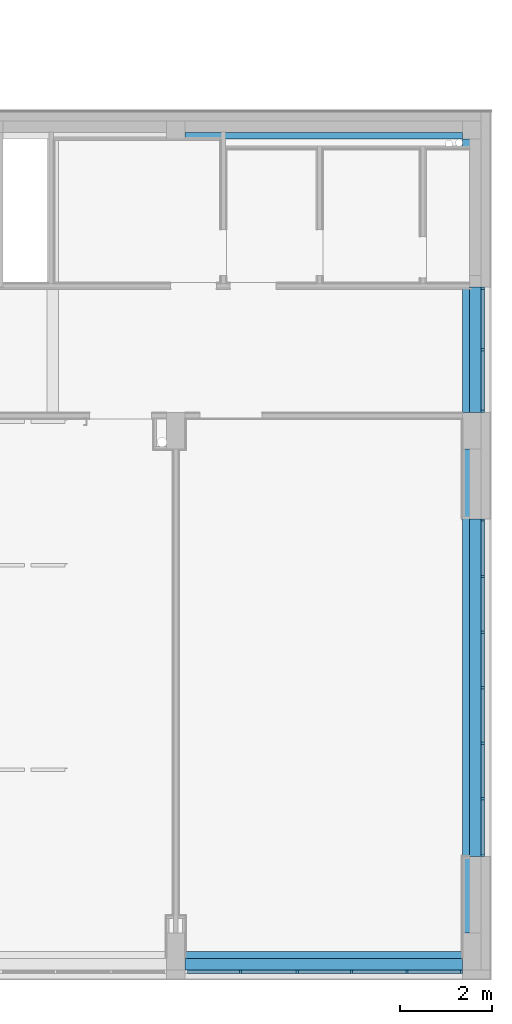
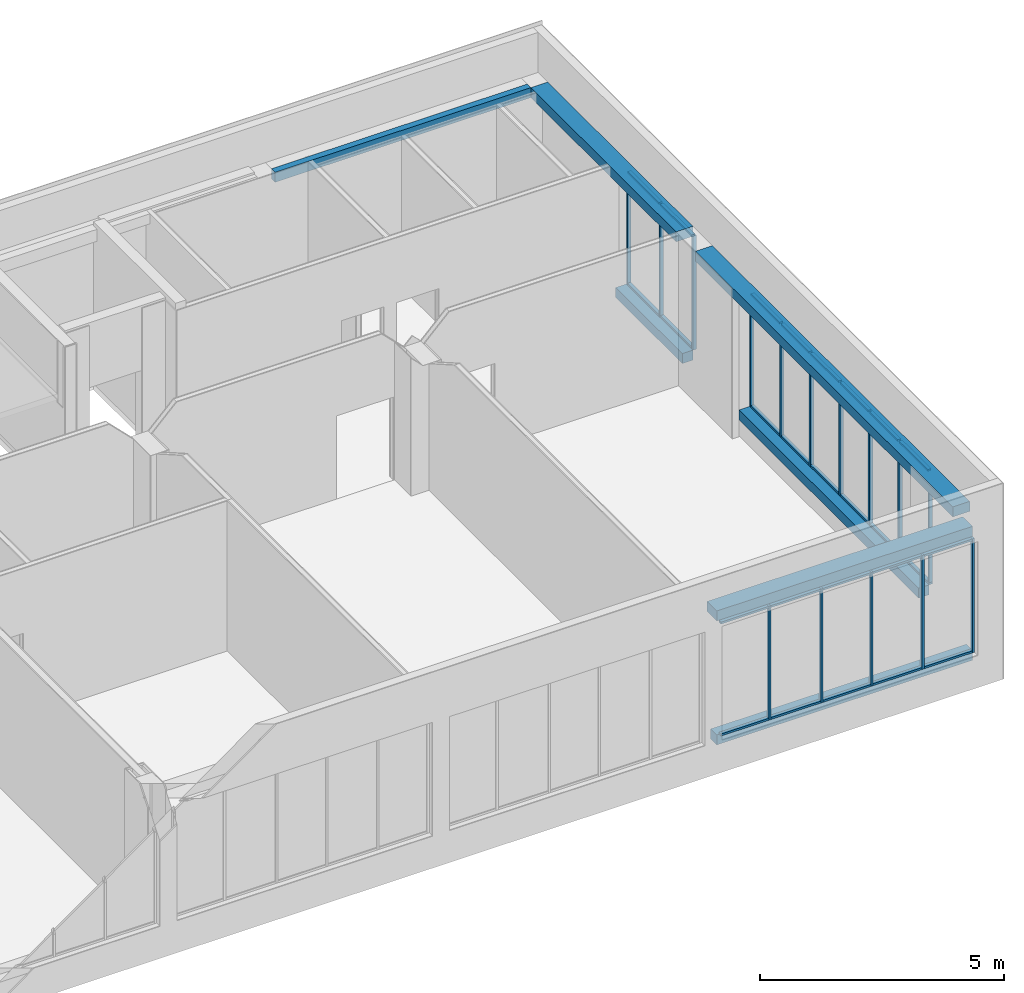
# One storey, part 11 of 29: 41 members, 6 beams, 3 elements without a shape of their own.
"""IFC2X3 building model written with IfcOpenShell, lengths in centimetres."""

from ifc_helpers import new_model, entity, si_unit, converted_unit, derived_unit, direction, frame, frame_2d, origin, origin_2d_with_axis, place, context, subcontext, project, spatial, rectangle, extrude, source, transform, mapped, material, type_object, type_shapes, element, aggregate, save


model = new_model("IFC2X3")

# Units and contexts
model_context = context("Model", 3, precision=0.001, world=origin(), true_north=direction((6.12303176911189e-17, 1.0)))
body_context = subcontext(model_context, "Body", "Model", "MODEL_VIEW")
ifc_project = project(units=[si_unit("LENGTHUNIT", "METRE", prefix="CENTI"), si_unit("AREAUNIT", "SQUARE_METRE"), si_unit("VOLUMEUNIT", "CUBIC_METRE"), converted_unit("PLANEANGLEUNIT", "DEGREE", entity("IfcRatioMeasure", 0.0174532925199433), si_unit("PLANEANGLEUNIT", "RADIAN"), dimensions=[0, 0, 0, 0, 0, 0, 0]), si_unit("MASSUNIT", "GRAM", prefix="KILO"), derived_unit("MASSDENSITYUNIT", [(si_unit("MASSUNIT", "GRAM", prefix="KILO"), 1), (si_unit("LENGTHUNIT", "METRE"), -3)]), derived_unit("MOMENTOFINERTIAUNIT", [(si_unit("LENGTHUNIT", "METRE"), 4)]), si_unit("TIMEUNIT", "SECOND"), si_unit("FREQUENCYUNIT", "HERTZ"), si_unit("THERMODYNAMICTEMPERATUREUNIT", "DEGREE_CELSIUS"), derived_unit("THERMALTRANSMITTANCEUNIT", [(si_unit("MASSUNIT", "GRAM", prefix="KILO"), 1), (si_unit("THERMODYNAMICTEMPERATUREUNIT", "KELVIN"), -1), (si_unit("TIMEUNIT", "SECOND"), -3)]), derived_unit("VOLUMETRICFLOWRATEUNIT", [(si_unit("LENGTHUNIT", "METRE"), 3), (si_unit("TIMEUNIT", "SECOND"), -1)]), si_unit("ELECTRICCURRENTUNIT", "AMPERE"), si_unit("ELECTRICVOLTAGEUNIT", "VOLT"), si_unit("POWERUNIT", "WATT"), si_unit("FORCEUNIT", "NEWTON", prefix="KILO"), si_unit("ILLUMINANCEUNIT", "LUX"), si_unit("LUMINOUSFLUXUNIT", "LUMEN"), si_unit("LUMINOUSINTENSITYUNIT", "CANDELA"), derived_unit("USERDEFINED", [(si_unit("MASSUNIT", "GRAM", prefix="KILO"), -1), (si_unit("LENGTHUNIT", "METRE"), -2), (si_unit("TIMEUNIT", "SECOND"), 3), (si_unit("LUMINOUSFLUXUNIT", "LUMEN"), 1)]), derived_unit("LINEARVELOCITYUNIT", [(si_unit("LENGTHUNIT", "METRE"), 1), (si_unit("TIMEUNIT", "SECOND"), -1)]), si_unit("PRESSUREUNIT", "PASCAL"), derived_unit("USERDEFINED", [(si_unit("LENGTHUNIT", "METRE"), -2), (si_unit("MASSUNIT", "GRAM", prefix="KILO"), 1), (si_unit("TIMEUNIT", "SECOND"), -2)]), derived_unit("LINEARFORCEUNIT", [(si_unit("MASSUNIT", "GRAM", prefix="KILO"), 1), (si_unit("LENGTHUNIT", "METRE"), 1), (si_unit("TIMEUNIT", "SECOND"), -2), (si_unit("LENGTHUNIT", "METRE"), -1)]), derived_unit("PLANARFORCEUNIT", [(si_unit("MASSUNIT", "GRAM", prefix="KILO"), 1), (si_unit("LENGTHUNIT", "METRE"), 1), (si_unit("TIMEUNIT", "SECOND"), -2), (si_unit("LENGTHUNIT", "METRE"), -2)])], contexts=[model_context])

# Site, building, storey
site_placement = place(None, origin())
site = spatial("IfcSite", under=ifc_project, at=site_placement, Name="Default", CompositionType="ELEMENT")
building_placement = place(site_placement, origin())
building = spatial("IfcBuilding", under=site, at=building_placement, CompositionType="ELEMENT")
storey_placement = place(building_placement, frame((0.0, 0.0, 545.0)))
storey = spatial("IfcBuildingStorey", under=building, at=storey_placement, Name="Poziom 1K +5,45", CompositionType="ELEMENT", Elevation=544.999999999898)

# Beams
ifc_material_1 = material(Name="_Beton C30/37")
beam_type_1 = type_object("IfcBeamType", Name="Beton-belka prostokątna:BELKA 40x30", PredefinedType="NOTDEFINED")
beam_1_placement = place(storey_placement, frame((310.734891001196, 2085.127452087, 380.0)))
element("IfcBeam", 1, at=beam_1_placement, inside=storey, type_object=beam_type_1, material=ifc_material_1, Name="Beton-belka prostokątna:BELKA 40x30", ObjectType="Beton-belka prostokątna:BELKA 40x30", context=body_context, shape_type="SweptSolid", body=[
    extrude(rectangle(XDim=25.0000000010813, YDim=14.999998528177, at=frame_2d((-5.41788836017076e-14, -2.16715534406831e-13), x_axis=(1.0, 0.0))), frame((20.0, -12.5000007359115, -2.49999999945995), z_axis=(1.0, 0.0, 0.0), x_axis=(0.0, 0.0, -1.0)), (0.0, 0.0, 1.0), 605.000000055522),
])
beam_2_placement = place(storey_placement, frame((135.734893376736, 275.127657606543, 380.0)))
element("IfcBeam", 2, at=beam_2_placement, inside=storey, type_object=beam_type_1, material=ifc_material_1, Name="Beton-belka prostokątna:BELKA 40x30", ObjectType="Beton-belka prostokątna:BELKA 40x30", context=body_context, shape_type="SweptSolid", body=[
    extrude(rectangle(XDim=25.0000000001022, YDim=40.000000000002, at=frame_2d((0.0, 6.76791955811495e-13), x_axis=(1.0, 0.0))), frame((195.0, 0.0, -2.49999999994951), z_axis=(1.0, 0.0, 0.0), x_axis=(0.0, 0.0, -1.0)), (0.0, 0.0, 1.0), 604.999997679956),
])
beam_type_2 = type_object("IfcBeamType", Name="Beton-belka prostokątna:BELKA 40x30", PredefinedType="BEAM", material=ifc_material_1)
shared_shape_1 = source(origin(), body_context, "Body", "SweptSolid", [
    extrude(rectangle(XDim=25.0000000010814, YDim=40.0000000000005, at=frame_2d((5.50670620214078e-14, 5.41788836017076e-14), x_axis=(0.0, 1.0))), frame((955.734891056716, 1470.12745208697, 922.499999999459), z_axis=(0.0, 1.0, 0.0), x_axis=(-1.0, 0.0, 0.0)), (0.0, 0.0, 1.0), 594.999999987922),
    extrude(rectangle(XDim=25.0000000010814, YDim=40.0000000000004, at=frame_2d((5.50670620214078e-14, 5.41788836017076e-14), x_axis=(0.0, 1.0))), frame((955.734891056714, 335.12765760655, 922.499999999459), z_axis=(0.0, 1.0, 0.0), x_axis=(-1.0, 0.0, 0.0)), (0.0, 0.0, 1.0), 1054.99979448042),
])
type_shapes(beam_type_2, [shared_shape_1])
beam_3_placement = place(storey_placement, frame((0.0, 0.0, -545.0)))
element("IfcBeam", 3, at=beam_3_placement, inside=storey, type_object=beam_type_2, Name="Beton-belka prostokątna:BELKA 40x30", ObjectType="Beton-belka prostokątna:BELKA 40x30", context=body_context, shape_type="MappedRepresentation", body=[
    mapped(shared_shape_1, transform((0.0, 0.0, 0.0), scale=1.0)),
])
beam_type_3 = type_object("IfcBeamType", Name="Beton-belka prostokątna:wieniec 25x25", PredefinedType="BEAM", material=ifc_material_1)
beam_4_placement = place(storey_placement, frame((330.734893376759, 267.62765760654, 0.0)))
element("IfcBeam", 4, at=beam_4_placement, inside=storey, type_object=beam_type_3, material=ifc_material_1, Name="Beton-belka prostokątna:wieniec 25x25", ObjectType="Beton-belka prostokątna:wieniec 25x25", context=body_context, shape_type="SweptSolid", body=[
    extrude(rectangle(XDim=24.9999999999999, YDim=25.0000000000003, at=frame_2d((0.0, 8.08242361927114e-14), x_axis=(1.0, 0.0))), frame((0.0, 0.0, 67.4999999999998), z_axis=(1.0, 0.0, 0.0), x_axis=(0.0, 0.0, -1.0)), (0.0, 0.0, 1.0), 604.999999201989),
])
beam_5_placement = place(storey_placement, frame((963.234888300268, 1350.52745208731, 0.0), z_axis=(0.0, 0.0, 1.0), x_axis=(0.0, -1.0, 0.0)))
element("IfcBeam", 5, at=beam_5_placement, inside=storey, type_object=beam_type_3, material=ifc_material_1, Name="Beton-belka prostokątna:wieniec 25x25", ObjectType="Beton-belka prostokątna:wieniec 25x25", context=body_context, shape_type="SweptSolid", body=[
    extrude(rectangle(XDim=24.9999999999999, YDim=25.0000000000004, at=origin_2d_with_axis()), frame((112.400989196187, 0.0, 67.4999999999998), z_axis=(1.0, 0.0, 0.0), x_axis=(0.0, 0.0, -1.0)), (0.0, 0.0, 1.0), 736.000005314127),
])
beam_6_placement = place(storey_placement, frame((963.234883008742, 1470.12745208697, 0.0), z_axis=(0.0, 0.0, 1.0), x_axis=(0.0, 1.0, 0.0)))
element("IfcBeam", 6, at=beam_6_placement, inside=storey, type_object=beam_type_3, material=ifc_material_1, Name="Beton-belka prostokątna:wieniec 25x25", ObjectType="Beton-belka prostokątna:wieniec 25x25", context=body_context, shape_type="SweptSolid", body=[
    extrude(rectangle(XDim=24.9999999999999, YDim=25.0000000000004, at=origin_2d_with_axis()), frame((0.0, 0.0, 67.4999999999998), z_axis=(1.0, 0.0, 0.0), x_axis=(0.0, 0.0, -1.0)), (0.0, 0.0, 1.0), 273.000000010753),
])

# Curtain wall, members
curtain_wall_type = type_object("IfcCurtainWallType", PredefinedType="NOTDEFINED")
curtain_wall_1_placement = place(storey_placement, frame((0.0, 0.0, -545.0)))
curtain_wall_1 = element("IfcCurtainWall", 7, at=curtain_wall_1_placement, inside=storey, type_object=curtain_wall_type)
ifc_material_2 = material(Name="Aluminium")
member_type_1 = type_object("IfcMemberType", Name="Prostokątny szpros:50 x 80mm", PredefinedType="MULLION", material=ifc_material_2)
shared_shape_2 = source(origin(), body_context, "Body", "SweptSolid", [
    extrude(rectangle(XDim=8.0, YDim=5.0, at=origin_2d_with_axis()), frame((-2.5, 0.0, -113.500173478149), z_axis=(0.0, 0.0, 1.0), x_axis=(0.0, -1.0, 0.0)), (0.0, 0.0, 1.0), 113.500173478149),
])
type_shapes(member_type_1, [shared_shape_2])
member_1_placement = place(curtain_wall_1_placement, frame((930.734892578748, 251.12765760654, 910.0), z_axis=(1.0, 0.0, 0.0), x_axis=(0.0, 0.0, 1.0)))
member_1 = element("IfcMember", 8, at=member_1_placement, type_object=member_type_1, Name="Prostokątny szpros:50 x 80mm", ObjectType="Prostokątny szpros:50 x 80mm", context=body_context, shape_type="MappedRepresentation", body=[
    mapped(shared_shape_2, transform((0.0, 0.0, 0.0), scale=1.0)),
])
member_2_placement = place(curtain_wall_1_placement, frame((449.23781245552, 251.127657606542, 910.0), z_axis=(1.0, 0.0, 0.0), x_axis=(0.0, 0.0, 1.0)))
member_2 = element("IfcMember", 9, at=member_2_placement, type_object=member_type_1, Name="Prostokątny szpros:50 x 80mm", ObjectType="Prostokątny szpros:50 x 80mm", context=body_context, shape_type="MappedRepresentation", body=[
    mapped(shared_shape_2, transform((0.0, 0.0, 0.0), scale=1.0)),
])
member_3_placement = place(curtain_wall_1_placement, frame((691.237798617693, 251.127657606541, 910.0), z_axis=(1.0, 0.0, 0.0), x_axis=(0.0, 0.0, 1.0)))
member_3 = element("IfcMember", 10, at=member_3_placement, type_object=member_type_1, Name="Prostokątny szpros:50 x 80mm", ObjectType="Prostokątny szpros:50 x 80mm", context=body_context, shape_type="MappedRepresentation", body=[
    mapped(shared_shape_2, transform((0.0, 0.0, 0.0), scale=1.0)),
])
member_type_2 = type_object("IfcMemberType", Name="Prostokątny szpros:50 x 80mm", PredefinedType="MULLION", material=ifc_material_2)
shared_shape_3 = source(origin(), body_context, "Body", "SweptSolid", [
    extrude(rectangle(XDim=8.0, YDim=5.0, at=origin_2d_with_axis()), frame((-2.5, 0.0, -113.500173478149), z_axis=(0.0, 0.0, 1.0), x_axis=(0.0, -1.0, 0.0)), (0.0, 0.0, 1.0), 113.500173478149),
])
type_shapes(member_type_2, [shared_shape_3])
member_4_placement = place(curtain_wall_1_placement, frame((335.734891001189, 251.127657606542, 625.0), z_axis=(-1.0, 0.0, 0.0), x_axis=(0.0, 0.0, -1.0)))
member_4 = element("IfcMember", 11, at=member_4_placement, type_object=member_type_2, Name="Prostokątny szpros:50 x 80mm", ObjectType="Prostokątny szpros:50 x 80mm", context=body_context, shape_type="MappedRepresentation", body=[
    mapped(shared_shape_3, transform((0.0, 0.0, 0.0), scale=1.0)),
])
member_5_placement = place(curtain_wall_1_placement, frame((577.737791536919, 251.127657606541, 625.0), z_axis=(-1.0, 0.0, 0.0), x_axis=(0.0, 0.0, -1.0)))
member_5 = element("IfcMember", 12, at=member_5_placement, type_object=member_type_2, Name="Prostokątny szpros:50 x 80mm", ObjectType="Prostokątny szpros:50 x 80mm", context=body_context, shape_type="MappedRepresentation", body=[
    mapped(shared_shape_3, transform((0.0, 0.0, 0.0), scale=1.0)),
])
member_6_placement = place(curtain_wall_1_placement, frame((817.237798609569, 251.12765760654, 625.0), z_axis=(-1.0, 0.0, 0.0), x_axis=(0.0, 0.0, -1.0)))
member_6 = element("IfcMember", 13, at=member_6_placement, type_object=member_type_2, Name="Prostokątny szpros:50 x 80mm", ObjectType="Prostokątny szpros:50 x 80mm", context=body_context, shape_type="MappedRepresentation", body=[
    mapped(shared_shape_3, transform((0.0, 0.0, 0.0), scale=1.0)),
])
member_type_3 = type_object("IfcMemberType", Name="Prostokątny szpros:50 x 80mm", PredefinedType="MULLION", material=ifc_material_2)
shared_shape_4 = source(origin(), body_context, "Body", "SweptSolid", [
    extrude(rectangle(XDim=8.0, YDim=5.0, at=origin_2d_with_axis()), frame((-2.5, 0.0, -116.002333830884), z_axis=(0.0, 0.0, 1.0), x_axis=(0.0, -1.0, 0.0)), (0.0, 0.0, 1.0), 116.002333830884),
])
type_shapes(member_type_3, [shared_shape_4])
member_7_placement = place(curtain_wall_1_placement, frame((696.237798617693, 251.127657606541, 625.0), z_axis=(-1.0, 0.0, 0.0), x_axis=(0.0, 0.0, -1.0)))
member_7 = element("IfcMember", 14, at=member_7_placement, type_object=member_type_3, Name="Prostokątny szpros:50 x 80mm", ObjectType="Prostokątny szpros:50 x 80mm", context=body_context, shape_type="MappedRepresentation", body=[
    mapped(shared_shape_4, transform((0.0, 0.0, 0.0), scale=1.0)),
])

curtain_wall_2_placement = place(storey_placement, frame((0.0, 0.0, -545.0)))
curtain_wall_2 = element("IfcCurtainWall", 15, at=curtain_wall_2_placement, inside=storey, type_object=curtain_wall_type)
member_8_placement = place(curtain_wall_2_placement, frame((979.734891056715, 630.626457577, 625.0), z_axis=(0.0, -1.0, 0.0), x_axis=(0.0, 0.0, -1.0)))
member_8 = element("IfcMember", 16, at=member_8_placement, type_object=member_type_3, Name="Prostokątny szpros:50 x 80mm", ObjectType="Prostokątny szpros:50 x 80mm", context=body_context, shape_type="MappedRepresentation", body=[
    mapped(shared_shape_4, transform((0.0, 0.0, 0.0), scale=1.0)),
])
member_9_placement = place(curtain_wall_2_placement, frame((979.734891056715, 751.627246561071, 625.0), z_axis=(0.0, -1.0, 0.0), x_axis=(0.0, 0.0, -1.0)))
member_9 = element("IfcMember", 17, at=member_9_placement, type_object=member_type_3, Name="Prostokątny szpros:50 x 80mm", ObjectType="Prostokątny szpros:50 x 80mm", context=body_context, shape_type="MappedRepresentation", body=[
    mapped(shared_shape_4, transform((0.0, 0.0, 0.0), scale=1.0)),
])
member_10_placement = place(curtain_wall_2_placement, frame((979.734891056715, 872.627246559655, 625.0), z_axis=(0.0, -1.0, 0.0), x_axis=(0.0, 0.0, -1.0)))
member_10 = element("IfcMember", 18, at=member_10_placement, type_object=member_type_3, Name="Prostokątny szpros:50 x 80mm", ObjectType="Prostokątny szpros:50 x 80mm", context=body_context, shape_type="MappedRepresentation", body=[
    mapped(shared_shape_4, transform((0.0, 0.0, 0.0), scale=1.0)),
])
member_11_placement = place(curtain_wall_2_placement, frame((979.734891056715, 993.627246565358, 625.0), z_axis=(0.0, -1.0, 0.0), x_axis=(0.0, 0.0, -1.0)))
member_11 = element("IfcMember", 19, at=member_11_placement, type_object=member_type_3, Name="Prostokątny szpros:50 x 80mm", ObjectType="Prostokątny szpros:50 x 80mm", context=body_context, shape_type="MappedRepresentation", body=[
    mapped(shared_shape_4, transform((0.0, 0.0, 0.0), scale=1.0)),
])

# Member
member_type_4 = type_object("IfcMemberType", Name="Prostokątny szpros:50 x 80mm", PredefinedType="MULLION", material=ifc_material_2)
shared_shape_5 = source(origin(), body_context, "Body", "SweptSolid", [
    extrude(rectangle(XDim=8.0, YDim=5.0, at=origin_2d_with_axis()), frame((-2.5, 0.0, -116.002333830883), z_axis=(0.0, 0.0, 1.0), x_axis=(0.0, -1.0, 0.0)), (0.0, 0.0, 1.0), 116.002333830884),
])
type_shapes(member_type_4, [shared_shape_5])
member_12_placement = place(curtain_wall_1_placement, frame((812.237798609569, 251.12765760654, 910.0), z_axis=(1.0, 0.0, 0.0), x_axis=(0.0, 0.0, 1.0)))
member_12 = element("IfcMember", 20, at=member_12_placement, type_object=member_type_4, Name="Prostokątny szpros:50 x 80mm", ObjectType="Prostokątny szpros:50 x 80mm", context=body_context, shape_type="MappedRepresentation", body=[
    mapped(shared_shape_5, transform((0.0, 0.0, 0.0), scale=1.0)),
])

member_13_placement = place(curtain_wall_2_placement, frame((979.734891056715, 746.627246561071, 910.0), z_axis=(0.0, 1.0, 0.0), x_axis=(0.0, 0.0, 1.0)))
member_13 = element("IfcMember", 21, at=member_13_placement, type_object=member_type_4, Name="Prostokątny szpros:50 x 80mm", ObjectType="Prostokątny szpros:50 x 80mm", context=body_context, shape_type="MappedRepresentation", body=[
    mapped(shared_shape_5, transform((0.0, 0.0, 0.0), scale=1.0)),
])

member_14_placement = place(curtain_wall_2_placement, frame((979.734891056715, 867.627246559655, 910.0), z_axis=(0.0, 1.0, 0.0), x_axis=(0.0, 0.0, 1.0)))
member_14 = element("IfcMember", 22, at=member_14_placement, type_object=member_type_4, Name="Prostokątny szpros:50 x 80mm", ObjectType="Prostokątny szpros:50 x 80mm", context=body_context, shape_type="MappedRepresentation", body=[
    mapped(shared_shape_5, transform((0.0, 0.0, 0.0), scale=1.0)),
])

member_15_placement = place(curtain_wall_2_placement, frame((979.734891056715, 988.627246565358, 910.0), z_axis=(0.0, 1.0, 0.0), x_axis=(0.0, 0.0, 1.0)))
member_15 = element("IfcMember", 23, at=member_15_placement, type_object=member_type_4, Name="Prostokątny szpros:50 x 80mm", ObjectType="Prostokątny szpros:50 x 80mm", context=body_context, shape_type="MappedRepresentation", body=[
    mapped(shared_shape_5, transform((0.0, 0.0, 0.0), scale=1.0)),
])

member_16_placement = place(curtain_wall_2_placement, frame((979.734891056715, 1109.62745084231, 910.0), z_axis=(0.0, 1.0, 0.0), x_axis=(0.0, 0.0, 1.0)))
member_16 = element("IfcMember", 24, at=member_16_placement, type_object=member_type_4, Name="Prostokątny szpros:50 x 80mm", ObjectType="Prostokątny szpros:50 x 80mm", context=body_context, shape_type="MappedRepresentation", body=[
    mapped(shared_shape_5, transform((0.0, 0.0, 0.0), scale=1.0)),
])

member_type_5 = type_object("IfcMemberType", Name="Prostokątny szpros:50 x 80mm", PredefinedType="MULLION", material=ifc_material_2)
shared_shape_6 = source(origin(), body_context, "Body", "SweptSolid", [
    extrude(rectangle(XDim=8.0, YDim=5.0, at=origin_2d_with_axis()), frame((-2.5, 0.0, -118.4999790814), z_axis=(0.0, 0.0, 1.0), x_axis=(0.0, -1.0, 0.0)), (0.0, 0.0, 1.0), 118.499979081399),
])
type_shapes(member_type_5, [shared_shape_6])
member_17_placement = place(curtain_wall_1_placement, frame((572.737791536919, 251.127657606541, 910.0), z_axis=(1.0, 0.0, 0.0), x_axis=(0.0, 0.0, 1.0)))
member_17 = element("IfcMember", 25, at=member_17_placement, type_object=member_type_5, Name="Prostokątny szpros:50 x 80mm", ObjectType="Prostokątny szpros:50 x 80mm", context=body_context, shape_type="MappedRepresentation", body=[
    mapped(shared_shape_6, transform((0.0, 0.0, 0.0), scale=1.0)),
])

member_18_placement = place(curtain_wall_2_placement, frame((979.734891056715, 1233.126457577, 910.0), z_axis=(0.0, 1.0, 0.0), x_axis=(0.0, 0.0, 1.0)))
member_18 = element("IfcMember", 26, at=member_18_placement, type_object=member_type_5, Name="Prostokątny szpros:50 x 80mm", ObjectType="Prostokątny szpros:50 x 80mm", context=body_context, shape_type="MappedRepresentation", body=[
    mapped(shared_shape_6, transform((0.0, 0.0, 0.0), scale=1.0)),
])

member_19_placement = place(curtain_wall_2_placement, frame((979.734891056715, 625.626457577, 910.0), z_axis=(0.0, 1.0, 0.0), x_axis=(0.0, 0.0, 1.0)))
member_19 = element("IfcMember", 27, at=member_19_placement, type_object=member_type_5, Name="Prostokątny szpros:50 x 80mm", ObjectType="Prostokątny szpros:50 x 80mm", context=body_context, shape_type="MappedRepresentation", body=[
    mapped(shared_shape_6, transform((0.0, 0.0, 0.0), scale=1.0)),
])

member_type_6 = type_object("IfcMemberType", Name="Prostokątny szpros:50 x 80mm", PredefinedType="MULLION", material=ifc_material_2)
shared_shape_7 = source(origin(), body_context, "Body", "SweptSolid", [
    extrude(rectangle(XDim=8.0, YDim=5.0, at=origin_2d_with_axis()), frame((-2.5, 0.0, -118.4999790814), z_axis=(0.0, 0.0, 1.0), x_axis=(0.0, -1.0, 0.0)), (0.0, 0.0, 1.0), 118.499979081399),
])
type_shapes(member_type_6, [shared_shape_7])
member_20_placement = place(curtain_wall_1_placement, frame((454.23781245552, 251.127657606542, 625.0), z_axis=(-1.0, 0.0, 0.0), x_axis=(0.0, 0.0, -1.0)))
member_20 = element("IfcMember", 28, at=member_20_placement, type_object=member_type_6, Name="Prostokątny szpros:50 x 80mm", ObjectType="Prostokątny szpros:50 x 80mm", context=body_context, shape_type="MappedRepresentation", body=[
    mapped(shared_shape_7, transform((0.0, 0.0, 0.0), scale=1.0)),
])

member_21_placement = place(curtain_wall_2_placement, frame((979.734891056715, 1114.62745084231, 625.0), z_axis=(0.0, -1.0, 0.0), x_axis=(0.0, 0.0, -1.0)))
member_21 = element("IfcMember", 29, at=member_21_placement, type_object=member_type_6, Name="Prostokątny szpros:50 x 80mm", ObjectType="Prostokątny szpros:50 x 80mm", context=body_context, shape_type="MappedRepresentation", body=[
    mapped(shared_shape_7, transform((0.0, 0.0, 0.0), scale=1.0)),
])

member_type_7 = type_object("IfcMemberType", Name="Prostokątny szpros:50 x 80mm", PredefinedType="MULLION", material=ifc_material_2)
shared_shape_8 = source(origin(), body_context, "Body", "SweptSolid", [
    extrude(rectangle(XDim=8.0, YDim=5.0, at=origin_2d_with_axis()), frame((-2.5, 0.0, -285.0), z_axis=(0.0, 0.0, 1.0), x_axis=(0.0, -1.0, 0.0)), (0.0, 0.0, 1.0), 284.99999999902),
])
type_shapes(member_type_7, [shared_shape_8])
member_22_placement = place(curtain_wall_1_placement, frame((935.734892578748, 251.12765760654, 625.0), z_axis=(0.0, 0.0, -1.0), x_axis=(1.0, 0.0, 0.0)))
member_22 = element("IfcMember", 30, at=member_22_placement, type_object=member_type_7, Name="Prostokątny szpros:50 x 80mm", ObjectType="Prostokątny szpros:50 x 80mm", context=body_context, shape_type="MappedRepresentation", body=[
    mapped(shared_shape_8, transform((0.0, 0.0, 0.0), scale=1.0)),
])

member_23_placement = place(curtain_wall_2_placement, frame((979.734891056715, 1238.126457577, 625.0), z_axis=(0.0, 0.0, -1.0), x_axis=(0.0, 1.0, 0.0)))
member_23 = element("IfcMember", 31, at=member_23_placement, type_object=member_type_7, Name="Prostokątny szpros:50 x 80mm", ObjectType="Prostokątny szpros:50 x 80mm", context=body_context, shape_type="MappedRepresentation", body=[
    mapped(shared_shape_8, transform((0.0, 0.0, 0.0), scale=1.0)),
])

# Curtain wall, members
curtain_wall_3_placement = place(storey_placement, frame((0.0, 0.0, -545.0)))
curtain_wall_3 = element("IfcCurtainWall", 32, at=curtain_wall_3_placement, inside=storey, type_object=curtain_wall_type)
member_24_placement = place(curtain_wall_3_placement, frame((979.735011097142, 1743.12745090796, 625.0), z_axis=(0.0, 0.0, -1.0), x_axis=(0.0, 1.0, 0.0)))
member_24 = element("IfcMember", 33, at=member_24_placement, type_object=member_type_7, Name="Prostokątny szpros:50 x 80mm", ObjectType="Prostokątny szpros:50 x 80mm", context=body_context, shape_type="MappedRepresentation", body=[
    mapped(shared_shape_8, transform((0.0, 0.0, 0.0), scale=1.0)),
])
member_type_8 = type_object("IfcMemberType", Name="Prostokątny szpros:50 x 80mm", PredefinedType="MULLION", material=ifc_material_2)
shared_shape_9 = source(origin(), body_context, "Body", "SweptSolid", [
    extrude(rectangle(XDim=8.0, YDim=5.0, at=origin_2d_with_axis()), frame((-2.5, 0.0, -285.0), z_axis=(0.0, 0.0, 1.0), x_axis=(0.0, -1.0, 0.0)), (0.0, 0.0, 1.0), 284.99999999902),
])
type_shapes(member_type_8, [shared_shape_9])
member_25_placement = place(curtain_wall_3_placement, frame((979.735011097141, 1470.12745090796, 910.0), z_axis=(0.0, 0.0, 1.0), x_axis=(0.0, -1.0, 0.0)))
member_25 = element("IfcMember", 34, at=member_25_placement, type_object=member_type_8, Name="Prostokątny szpros:50 x 80mm", ObjectType="Prostokątny szpros:50 x 80mm", context=body_context, shape_type="MappedRepresentation", body=[
    mapped(shared_shape_9, transform((0.0, 0.0, 0.0), scale=1.0)),
])

# Member
member_type_9 = type_object("IfcMemberType", Name="Prostokątny szpros:50 x 80mm", PredefinedType="MULLION", material=ifc_material_2)
shared_shape_10 = source(origin(), body_context, "Body", "SweptSolid", [
    extrude(rectangle(XDim=8.0, YDim=5.0, at=origin_2d_with_axis()), frame((0.0, 0.0, -285.0), z_axis=(0.0, 0.0, 1.0), x_axis=(0.0, -1.0, 0.0)), (0.0, 0.0, 1.0), 284.99999999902),
])
type_shapes(member_type_9, [shared_shape_10])
member_26_placement = place(curtain_wall_1_placement, frame((451.73781245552, 251.127657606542, 625.0), z_axis=(0.0, 0.0, -1.0), x_axis=(1.0, 0.0, 0.0)))
member_26 = element("IfcMember", 35, at=member_26_placement, type_object=member_type_9, Name="Prostokątny szpros:50 x 80mm", ObjectType="Prostokątny szpros:50 x 80mm", context=body_context, shape_type="MappedRepresentation", body=[
    mapped(shared_shape_10, transform((0.0, 0.0, 0.0), scale=1.0)),
])

member_27_placement = place(curtain_wall_1_placement, frame((575.237791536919, 251.127657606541, 625.0), z_axis=(0.0, 0.0, -1.0), x_axis=(1.0, 0.0, 0.0)))
member_27 = element("IfcMember", 36, at=member_27_placement, type_object=member_type_9, Name="Prostokątny szpros:50 x 80mm", ObjectType="Prostokątny szpros:50 x 80mm", context=body_context, shape_type="MappedRepresentation", body=[
    mapped(shared_shape_10, transform((0.0, 0.0, 0.0), scale=1.0)),
])

member_28_placement = place(curtain_wall_1_placement, frame((693.737798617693, 251.127657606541, 625.0), z_axis=(0.0, 0.0, -1.0), x_axis=(1.0, 0.0, 0.0)))
member_28 = element("IfcMember", 37, at=member_28_placement, type_object=member_type_9, Name="Prostokątny szpros:50 x 80mm", ObjectType="Prostokątny szpros:50 x 80mm", context=body_context, shape_type="MappedRepresentation", body=[
    mapped(shared_shape_10, transform((0.0, 0.0, 0.0), scale=1.0)),
])

member_29_placement = place(curtain_wall_1_placement, frame((814.737798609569, 251.12765760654, 625.0), z_axis=(0.0, 0.0, -1.0), x_axis=(1.0, 0.0, 0.0)))
member_29 = element("IfcMember", 38, at=member_29_placement, type_object=member_type_9, Name="Prostokątny szpros:50 x 80mm", ObjectType="Prostokątny szpros:50 x 80mm", context=body_context, shape_type="MappedRepresentation", body=[
    mapped(shared_shape_10, transform((0.0, 0.0, 0.0), scale=1.0)),
])

aggregate(curtain_wall_1, [member_1, member_4, member_22, member_2, member_20, member_26, member_17, member_5, member_27, member_3, member_7, member_28, member_12, member_6, member_29])

member_30_placement = place(curtain_wall_2_placement, frame((979.734891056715, 628.126457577, 625.0), z_axis=(0.0, 0.0, -1.0), x_axis=(0.0, 1.0, 0.0)))
member_30 = element("IfcMember", 39, at=member_30_placement, type_object=member_type_9, Name="Prostokątny szpros:50 x 80mm", ObjectType="Prostokątny szpros:50 x 80mm", context=body_context, shape_type="MappedRepresentation", body=[
    mapped(shared_shape_10, transform((0.0, 0.0, 0.0), scale=1.0)),
])

member_31_placement = place(curtain_wall_2_placement, frame((979.734891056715, 749.127246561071, 625.0), z_axis=(0.0, 0.0, -1.0), x_axis=(0.0, 1.0, 0.0)))
member_31 = element("IfcMember", 40, at=member_31_placement, type_object=member_type_9, Name="Prostokątny szpros:50 x 80mm", ObjectType="Prostokątny szpros:50 x 80mm", context=body_context, shape_type="MappedRepresentation", body=[
    mapped(shared_shape_10, transform((0.0, 0.0, 0.0), scale=1.0)),
])

member_32_placement = place(curtain_wall_2_placement, frame((979.734891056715, 870.127246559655, 625.0), z_axis=(0.0, 0.0, -1.0), x_axis=(0.0, 1.0, 0.0)))
member_32 = element("IfcMember", 41, at=member_32_placement, type_object=member_type_9, Name="Prostokątny szpros:50 x 80mm", ObjectType="Prostokątny szpros:50 x 80mm", context=body_context, shape_type="MappedRepresentation", body=[
    mapped(shared_shape_10, transform((0.0, 0.0, 0.0), scale=1.0)),
])

member_33_placement = place(curtain_wall_2_placement, frame((979.734891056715, 991.127246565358, 625.0), z_axis=(0.0, 0.0, -1.0), x_axis=(0.0, 1.0, 0.0)))
member_33 = element("IfcMember", 42, at=member_33_placement, type_object=member_type_9, Name="Prostokątny szpros:50 x 80mm", ObjectType="Prostokątny szpros:50 x 80mm", context=body_context, shape_type="MappedRepresentation", body=[
    mapped(shared_shape_10, transform((0.0, 0.0, 0.0), scale=1.0)),
])

member_34_placement = place(curtain_wall_2_placement, frame((979.734891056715, 1112.12745084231, 625.0), z_axis=(0.0, 0.0, -1.0), x_axis=(0.0, 1.0, 0.0)))
member_34 = element("IfcMember", 43, at=member_34_placement, type_object=member_type_9, Name="Prostokątny szpros:50 x 80mm", ObjectType="Prostokątny szpros:50 x 80mm", context=body_context, shape_type="MappedRepresentation", body=[
    mapped(shared_shape_10, transform((0.0, 0.0, 0.0), scale=1.0)),
])

member_35_placement = place(curtain_wall_3_placement, frame((979.735011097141, 1606.62724627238, 625.0), z_axis=(0.0, 0.0, -1.0), x_axis=(0.0, 1.0, 0.0)))
member_35 = element("IfcMember", 44, at=member_35_placement, type_object=member_type_9, Name="Prostokątny szpros:50 x 80mm", ObjectType="Prostokątny szpros:50 x 80mm", context=body_context, shape_type="MappedRepresentation", body=[
    mapped(shared_shape_10, transform((0.0, 0.0, 0.0), scale=1.0)),
])

member_type_10 = type_object("IfcMemberType", Name="Prostokątny szpros:50 x 80mm", PredefinedType="MULLION", material=ifc_material_2)
shared_shape_11 = source(origin(), body_context, "Body", "SweptSolid", [
    extrude(rectangle(XDim=8.0, YDim=5.0, at=origin_2d_with_axis()), frame((-2.5, 0.0, -123.5), z_axis=(0.0, 0.0, 1.0), x_axis=(0.0, -1.0, 0.0)), (0.0, 0.0, 1.0), 123.5),
])
type_shapes(member_type_10, [shared_shape_11])
member_36_placement = place(curtain_wall_2_placement, frame((979.734891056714, 502.126457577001, 625.0), z_axis=(0.0, -1.0, 0.0), x_axis=(0.0, 0.0, -1.0)))
member_36 = element("IfcMember", 45, at=member_36_placement, type_object=member_type_10, Name="Prostokątny szpros:50 x 80mm", ObjectType="Prostokątny szpros:50 x 80mm", context=body_context, shape_type="MappedRepresentation", body=[
    mapped(shared_shape_11, transform((0.0, 0.0, 0.0), scale=1.0)),
])

member_type_11 = type_object("IfcMemberType", Name="Prostokątny szpros:50 x 80mm", PredefinedType="MULLION", material=ifc_material_2)
shared_shape_12 = source(origin(), body_context, "Body", "SweptSolid", [
    extrude(rectangle(XDim=8.0, YDim=5.0, at=origin_2d_with_axis()), frame((-2.5, 0.0, -280.0), z_axis=(0.0, 0.0, 1.0), x_axis=(0.0, -1.0, 0.0)), (0.0, 0.0, 1.0), 280.000000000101),
])
type_shapes(member_type_11, [shared_shape_12])
member_37_placement = place(curtain_wall_2_placement, frame((979.734891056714, 502.126457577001, 910.0), z_axis=(0.0, 0.0, 1.0), x_axis=(0.0, -1.0, 0.0)))
member_37 = element("IfcMember", 46, at=member_37_placement, type_object=member_type_11, Name="Prostokątny szpros:50 x 80mm", ObjectType="Prostokątny szpros:50 x 80mm", context=body_context, shape_type="MappedRepresentation", body=[
    mapped(shared_shape_12, transform((0.0, 0.0, 0.0), scale=1.0)),
])

aggregate(curtain_wall_2, [member_18, member_36, member_23, member_37, member_19, member_8, member_30, member_13, member_9, member_31, member_14, member_10, member_32, member_15, member_11, member_33, member_16, member_21, member_34])

member_type_12 = type_object("IfcMemberType", Name="Prostokątny szpros:50 x 80mm", PredefinedType="MULLION", material=ifc_material_2)
shared_shape_13 = source(origin(), body_context, "Body", "SweptSolid", [
    extrude(rectangle(XDim=8.0, YDim=5.0, at=origin_2d_with_axis()), frame((-2.5, 0.0, -129.000204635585), z_axis=(0.0, 0.0, 1.0), x_axis=(0.0, -1.0, 0.0)), (0.0, 0.0, 1.0), 129.000204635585),
])
type_shapes(member_type_12, [shared_shape_13])
member_38_placement = place(curtain_wall_3_placement, frame((979.735011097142, 1738.12745090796, 910.0), z_axis=(0.0, 1.0, 0.0), x_axis=(0.0, 0.0, 1.0)))
member_38 = element("IfcMember", 47, at=member_38_placement, type_object=member_type_12, Name="Prostokątny szpros:50 x 80mm", ObjectType="Prostokątny szpros:50 x 80mm", context=body_context, shape_type="MappedRepresentation", body=[
    mapped(shared_shape_13, transform((0.0, 0.0, 0.0), scale=1.0)),
])

member_39_placement = place(curtain_wall_3_placement, frame((979.735011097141, 1604.12724627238, 910.0), z_axis=(0.0, 1.0, 0.0), x_axis=(0.0, 0.0, 1.0)))
member_39 = element("IfcMember", 48, at=member_39_placement, type_object=member_type_12, Name="Prostokątny szpros:50 x 80mm", ObjectType="Prostokątny szpros:50 x 80mm", context=body_context, shape_type="MappedRepresentation", body=[
    mapped(shared_shape_13, transform((0.0, 0.0, 0.0), scale=1.0)),
])

member_type_13 = type_object("IfcMemberType", Name="Prostokątny szpros:50 x 80mm", PredefinedType="MULLION", material=ifc_material_2)
shared_shape_14 = source(origin(), body_context, "Body", "SweptSolid", [
    extrude(rectangle(XDim=8.0, YDim=5.0, at=origin_2d_with_axis()), frame((-2.5, 0.0, -129.000204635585), z_axis=(0.0, 0.0, 1.0), x_axis=(0.0, -1.0, 0.0)), (0.0, 0.0, 1.0), 129.000204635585),
])
type_shapes(member_type_13, [shared_shape_14])
member_40_placement = place(curtain_wall_3_placement, frame((979.735011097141, 1475.12745090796, 625.0), z_axis=(0.0, -1.0, 0.0), x_axis=(0.0, 0.0, -1.0)))
member_40 = element("IfcMember", 49, at=member_40_placement, type_object=member_type_13, Name="Prostokątny szpros:50 x 80mm", ObjectType="Prostokątny szpros:50 x 80mm", context=body_context, shape_type="MappedRepresentation", body=[
    mapped(shared_shape_14, transform((0.0, 0.0, 0.0), scale=1.0)),
])

member_41_placement = place(curtain_wall_3_placement, frame((979.735011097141, 1609.12724627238, 625.0), z_axis=(0.0, -1.0, 0.0), x_axis=(0.0, 0.0, -1.0)))
member_41 = element("IfcMember", 50, at=member_41_placement, type_object=member_type_13, Name="Prostokątny szpros:50 x 80mm", ObjectType="Prostokątny szpros:50 x 80mm", context=body_context, shape_type="MappedRepresentation", body=[
    mapped(shared_shape_14, transform((0.0, 0.0, 0.0), scale=1.0)),
])

aggregate(curtain_wall_3, [member_38, member_40, member_24, member_25, member_39, member_41, member_35])

save(model, "model.ifc")
